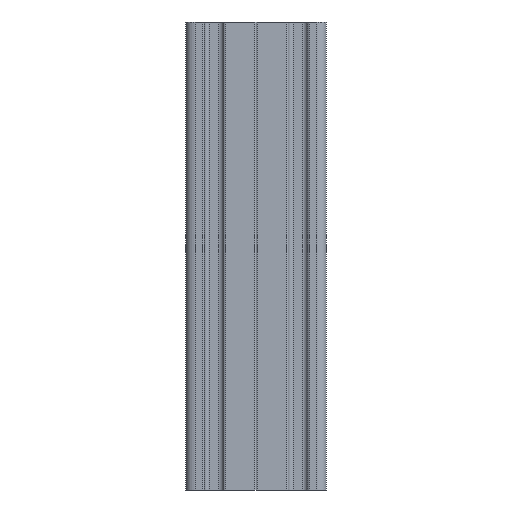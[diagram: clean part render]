
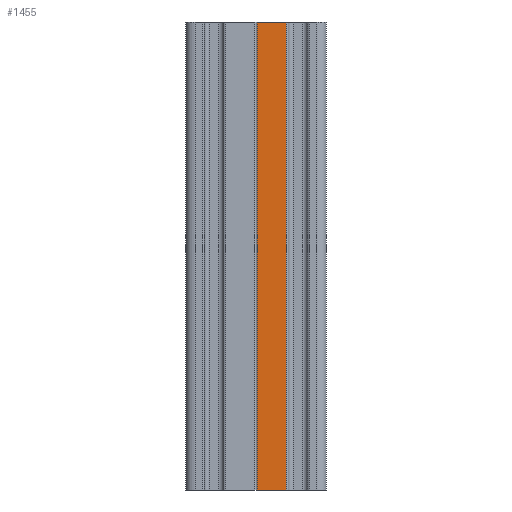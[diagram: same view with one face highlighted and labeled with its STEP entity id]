
A CAD part, front view. The second image highlights one B-rep face of the part: STEP entity #1455.
In plain terms, the highlighted planar face has unit normal (0, -1, 0).
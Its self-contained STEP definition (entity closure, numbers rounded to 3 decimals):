
#1397=CARTESIAN_POINT('',(41.036,25.711,200.0));
#1398=VERTEX_POINT('',#1397);
#1406=CARTESIAN_POINT('',(41.036,25.711,0.0));
#1407=VERTEX_POINT('',#1406);
#1408=CARTESIAN_POINT('',(41.036,25.711,0.0));
#1409=DIRECTION('',(0.0,0.0,1.0));
#1410=VECTOR('',#1409,200.0);
#1411=LINE('',#1408,#1410);
#1412=EDGE_CURVE('',#1407,#1398,#1411,.T.);
#1425=CARTESIAN_POINT('',(41.036,25.711,0.0));
#1426=DIRECTION('',(0.0,-1.0,0.0));
#1427=DIRECTION('',(0.0,0.0,-1.0));
#1428=AXIS2_PLACEMENT_3D('',#1425,#1426,#1427);
#1429=PLANE('',#1428);
#1430=CARTESIAN_POINT('',(28.556,25.711,200.0));
#1431=VERTEX_POINT('',#1430);
#1432=CARTESIAN_POINT('',(41.036,25.711,200.0));
#1433=DIRECTION('',(-1.0,0.0,0.0));
#1434=VECTOR('',#1433,12.48);
#1435=LINE('',#1432,#1434);
#1436=EDGE_CURVE('',#1398,#1431,#1435,.T.);
#1437=ORIENTED_EDGE('',*,*,#1436,.T.);
#1438=CARTESIAN_POINT('',(28.556,25.711,0.0));
#1439=VERTEX_POINT('',#1438);
#1440=CARTESIAN_POINT('',(28.556,25.711,0.0));
#1441=DIRECTION('',(0.0,0.0,1.0));
#1442=VECTOR('',#1441,200.0);
#1443=LINE('',#1440,#1442);
#1444=EDGE_CURVE('',#1439,#1431,#1443,.T.);
#1445=ORIENTED_EDGE('',*,*,#1444,.F.);
#1446=CARTESIAN_POINT('',(28.556,25.711,0.0));
#1447=DIRECTION('',(1.0,0.0,0.0));
#1448=VECTOR('',#1447,12.48);
#1449=LINE('',#1446,#1448);
#1450=EDGE_CURVE('',#1439,#1407,#1449,.T.);
#1451=ORIENTED_EDGE('',*,*,#1450,.T.);
#1452=ORIENTED_EDGE('',*,*,#1412,.T.);
#1453=EDGE_LOOP('',(#1437,#1445,#1451,#1452));
#1454=FACE_OUTER_BOUND('',#1453,.T.);
#1455=ADVANCED_FACE('',(#1454),#1429,.T.);
